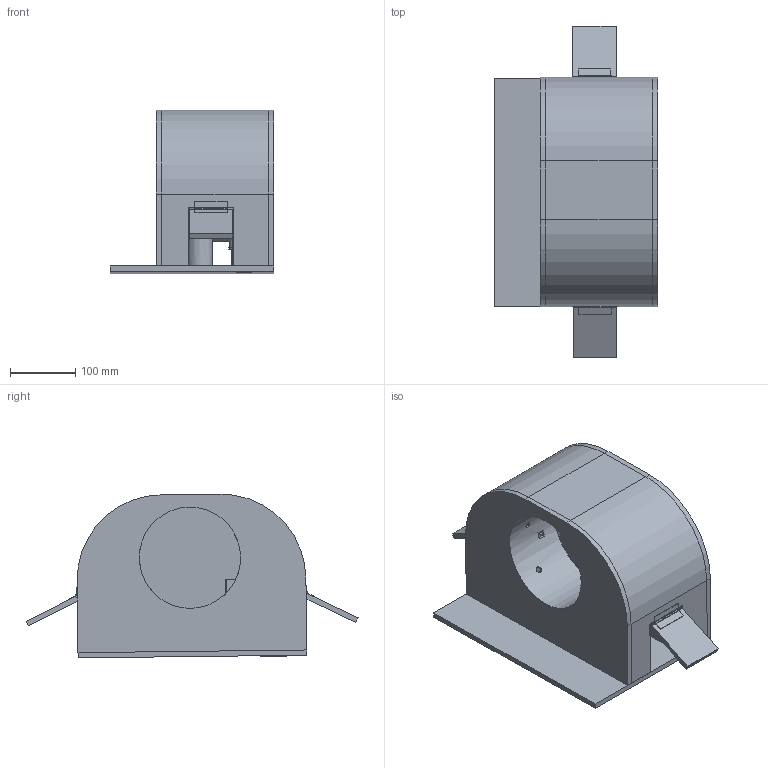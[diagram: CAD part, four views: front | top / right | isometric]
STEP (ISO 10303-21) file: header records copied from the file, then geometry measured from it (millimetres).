
FILE_DESCRIPTION(/* description */ ('Unknown'),/* implementation_level */ '2;1');
FILE_NAME(/* name */ 'mechnanism',/* time_stamp */ '2020-10-29T15:46:22+05:00',/* author */ ('Unknown'),/* organization */ ('Unknown'),/* preprocessor_version */ 'ST-DEVELOPER v16.7',/* originating_system */ 'DEX',/* authorisation */ $);
FILE_SCHEMA (('AUTOMOTIVE_DESIGN {1 0 10303 214 3 1 1}'));
Length unit declared in the file: millimetre
Products named in the file (20): mechnanism; baselink; baseside; link2; link3; fixedlink; Bottlecap; bottle; Hobbymotor; Front; Baseplate; Backplate; backplate1; block; outsideclosure; hinge; Hingerod; hinge1; sidegate; Hinge2
Assembly tree (33 placements, depth 3):
  mechnanism
    baselink  x2
    baseside  x4
    link2  x2
    link3  x3
    fixedlink  x2
    Bottlecap  x2
    bottle  x2
    Hobbymotor  x3
    Front
    Baseplate
    Backplate
    backplate1
    block  x2
    outsideclosure
    hinge  x2
      Hingerod
      hinge1
      sidegate
      Hinge2
Bounding box: 250 x 507.94 x 250.57 mm (x, y, z)
Volume: 3192962.7 mm3; surface area: 961351.7 mm2
Topology: 34 solids, 34 shells, 347 faces, 789 edges, 515 vertices
Faces by surface type: plane 248, cylinder 93, bspline 4, torus 2
Full cylindrical faces by diameter (mm): 2 x12, 5 x17, 8 x2, 8.891 x2, 10 x6, 16 x2, 18 x2, 20 x2, 155 x1, 160 x1
Entity records: 7279 total; most frequent: CARTESIAN_POINT 1929, DIRECTION 911, ORIENTED_EDGE 778, EDGE_CURVE 389, AXIS2_PLACEMENT_3D 316, LINE 279, VECTOR 279, VERTEX_POINT 270
